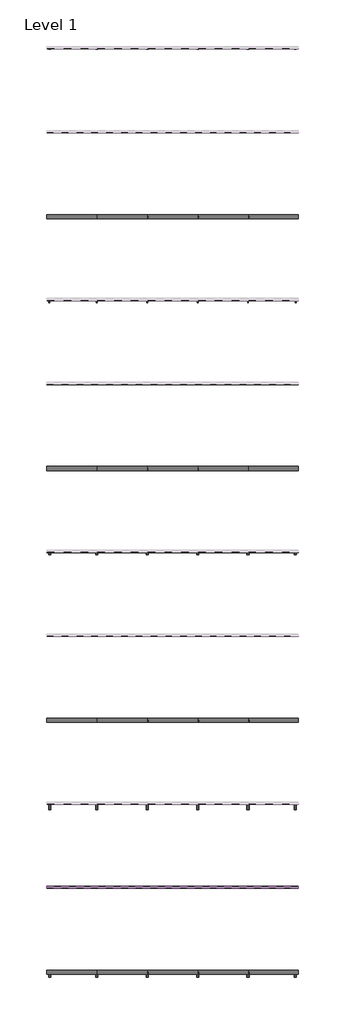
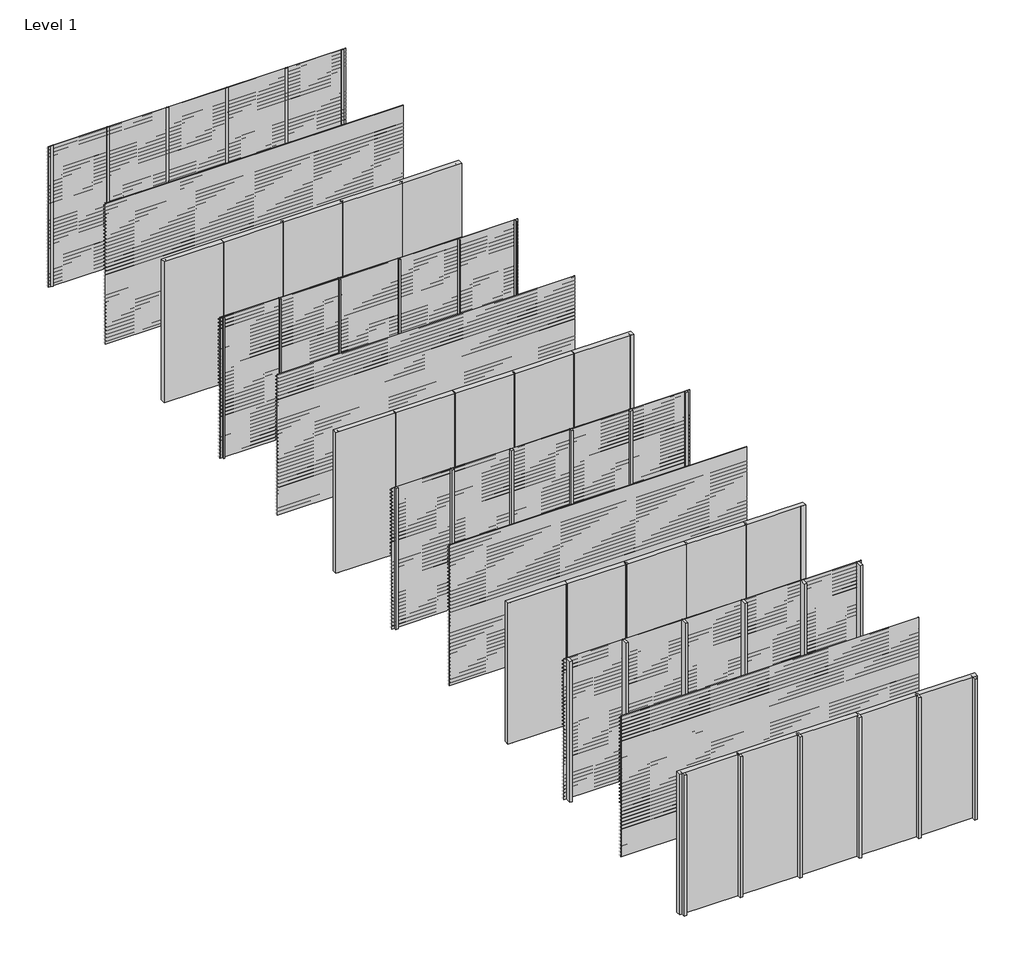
# One storey, part 1 of 11: 48 members, 44 plates, 25 proxies.
"""IFC4 building model written with IfcOpenShell, lengths in millimetres."""

from ifc_helpers import new_model, si_unit, frame, origin, origin_with_axes, place, context, project, spatial, polyline, outline, extrude, transform, mapped, element, save
from components import rectangular_mullion_bbbcbd30, rectangular_mullion_f8d4a220, rectangular_mullion_81aaf6fe, rectangular_mullion_6e08dc26, rectangular_mullion_75c52e10, rectangular_mullion_40295cf1, rectangular_mullion_7f158cb3, rectangular_mullion_66519e13, rectangular_mullion_5829b51c, rectangular_mullion_3b5b8a15, rectangular_mullion_81543344, rectangular_mullion_041a21c4, empty_system_panel_empty_50a928b3, empty_system_panel_empty_6b1ffbf5

model = new_model("IFC4")

# Units and contexts
model_context = context("Model", 3, world=origin())
ifc_project = project(units=[si_unit("LENGTHUNIT", "METRE", prefix="MILLI")], contexts=[model_context])

# Site, building, storey
site = spatial("IfcSite", under=ifc_project)
building = spatial("IfcBuilding", under=site)
storey = spatial("IfcBuildingStorey", under=building, Name="Level 1", Elevation=0.0)

# Proxies
placement = place(None, origin())
element("IfcBuildingElementProxy", 1, Name="Wall Sweeps", at=placement, inside=storey, context=model_context, shape_type="SweptSolid", body=[
    extrude(outline(polyline([(-19995.0, 3000.0), (-19995.0, 2990.7409854), (-19946.0, 2940.0), (-19946.0, 2924.0), (-19997.0, 2976.812046), (-19997.0, 3000.0), (-19995.0, 3000.0)])), frame((0.0, 0.0, 0.0), z_axis=(1.0, 0.0, 0.0), x_axis=(0.0, 1.0, 0.0)), (0.0, 0.0, 1.0), 6000.0),
])
element("IfcBuildingElementProxy", 2, Name="Wall Sweeps", at=placement, inside=storey, context=model_context, shape_type="SweptSolid", body=[
    extrude(outline(polyline([(-19995.0, 2925.0), (-19995.0, 2915.7409854), (-19946.0, 2865.0), (-19946.0, 2849.0), (-19997.0, 2901.812046), (-19997.0, 2925.0), (-19995.0, 2925.0)])), frame((0.0, 0.0, 0.0), z_axis=(1.0, 0.0, 0.0), x_axis=(0.0, 1.0, 0.0)), (0.0, 0.0, 1.0), 6000.0),
])
element("IfcBuildingElementProxy", 3, Name="Wall Sweeps", at=placement, inside=storey, context=model_context, shape_type="SweptSolid", body=[
    extrude(outline(polyline([(-19995.0, 2850.0), (-19995.0, 2840.7409854), (-19946.0, 2790.0), (-19946.0, 2774.0), (-19997.0, 2826.812046), (-19997.0, 2850.0), (-19995.0, 2850.0)])), frame((0.0, 0.0, 0.0), z_axis=(1.0, 0.0, 0.0), x_axis=(0.0, 1.0, 0.0)), (0.0, 0.0, 1.0), 6000.0),
])
element("IfcBuildingElementProxy", 4, Name="Wall Sweeps", at=placement, inside=storey, context=model_context, shape_type="SweptSolid", body=[
    extrude(outline(polyline([(-19995.0, 2775.0), (-19995.0, 2765.7409854), (-19946.0, 2715.0), (-19946.0, 2699.0), (-19997.0, 2751.812046), (-19997.0, 2775.0), (-19995.0, 2775.0)])), frame((0.0, 0.0, 0.0), z_axis=(1.0, 0.0, 0.0), x_axis=(0.0, 1.0, 0.0)), (0.0, 0.0, 1.0), 6000.0),
])
element("IfcBuildingElementProxy", 5, Name="Wall Sweeps", at=placement, inside=storey, context=model_context, shape_type="SweptSolid", body=[
    extrude(outline(polyline([(-19995.0, 2700.0), (-19995.0, 2690.7409854), (-19946.0, 2640.0), (-19946.0, 2624.0), (-19997.0, 2676.812046), (-19997.0, 2700.0), (-19995.0, 2700.0)])), frame((0.0, 0.0, 0.0), z_axis=(1.0, 0.0, 0.0), x_axis=(0.0, 1.0, 0.0)), (0.0, 0.0, 1.0), 6000.0),
])
element("IfcBuildingElementProxy", 6, Name="Wall Sweeps", at=placement, inside=storey, context=model_context, shape_type="SweptSolid", body=[
    extrude(outline(polyline([(-19995.0, 2625.0), (-19995.0, 2615.7409854), (-19946.0, 2565.0), (-19946.0, 2549.0), (-19997.0, 2601.812046), (-19997.0, 2625.0), (-19995.0, 2625.0)])), frame((0.0, 0.0, 0.0), z_axis=(1.0, 0.0, 0.0), x_axis=(0.0, 1.0, 0.0)), (0.0, 0.0, 1.0), 6000.0),
])
element("IfcBuildingElementProxy", 7, Name="Wall Sweeps", at=placement, inside=storey, context=model_context, shape_type="SweptSolid", body=[
    extrude(outline(polyline([(-19995.0, 2550.0), (-19995.0, 2540.7409854), (-19946.0, 2490.0), (-19946.0, 2474.0), (-19997.0, 2526.812046), (-19997.0, 2550.0), (-19995.0, 2550.0)])), frame((0.0, 0.0, 0.0), z_axis=(1.0, 0.0, 0.0), x_axis=(0.0, 1.0, 0.0)), (0.0, 0.0, 1.0), 6000.0),
])
element("IfcBuildingElementProxy", 8, Name="Wall Sweeps", at=placement, inside=storey, context=model_context, shape_type="SweptSolid", body=[
    extrude(outline(polyline([(-19995.0, 2475.0), (-19995.0, 2465.7409854), (-19946.0, 2415.0), (-19946.0, 2399.0), (-19997.0, 2451.812046), (-19997.0, 2475.0), (-19995.0, 2475.0)])), frame((0.0, 0.0, 0.0), z_axis=(1.0, 0.0, 0.0), x_axis=(0.0, 1.0, 0.0)), (0.0, 0.0, 1.0), 6000.0),
])
element("IfcBuildingElementProxy", 9, Name="Wall Sweeps", at=placement, inside=storey, context=model_context, shape_type="SweptSolid", body=[
    extrude(outline(polyline([(-19995.0, 2400.0), (-19995.0, 2390.7409854), (-19946.0, 2340.0), (-19946.0, 2324.0), (-19997.0, 2376.812046), (-19997.0, 2400.0), (-19995.0, 2400.0)])), frame((0.0, 0.0, 0.0), z_axis=(1.0, 0.0, 0.0), x_axis=(0.0, 1.0, 0.0)), (0.0, 0.0, 1.0), 6000.0),
])
element("IfcBuildingElementProxy", 10, Name="Wall Sweeps", at=placement, inside=storey, context=model_context, shape_type="SweptSolid", body=[
    extrude(outline(polyline([(-19995.0, 2325.0), (-19995.0, 2315.7409854), (-19946.0, 2265.0), (-19946.0, 2249.0), (-19997.0, 2301.812046), (-19997.0, 2325.0), (-19995.0, 2325.0)])), frame((0.0, 0.0, 0.0), z_axis=(1.0, 0.0, 0.0), x_axis=(0.0, 1.0, 0.0)), (0.0, 0.0, 1.0), 6000.0),
])
element("IfcBuildingElementProxy", 11, Name="Wall Sweeps", at=placement, inside=storey, context=model_context, shape_type="SweptSolid", body=[
    extrude(outline(polyline([(-19995.0, 2250.0), (-19995.0, 2240.7409854), (-19946.0, 2190.0), (-19946.0, 2174.0), (-19997.0, 2226.812046), (-19997.0, 2250.0), (-19995.0, 2250.0)])), frame((0.0, 0.0, 0.0), z_axis=(1.0, 0.0, 0.0), x_axis=(0.0, 1.0, 0.0)), (0.0, 0.0, 1.0), 6000.0),
])
element("IfcBuildingElementProxy", 12, Name="Wall Sweeps", at=placement, inside=storey, context=model_context, shape_type="SweptSolid", body=[
    extrude(outline(polyline([(-19995.0, 2175.0), (-19995.0, 2165.7409854), (-19946.0, 2115.0), (-19946.0, 2099.0), (-19997.0, 2151.812046), (-19997.0, 2175.0), (-19995.0, 2175.0)])), frame((0.0, 0.0, 0.0), z_axis=(1.0, 0.0, 0.0), x_axis=(0.0, 1.0, 0.0)), (0.0, 0.0, 1.0), 6000.0),
])
element("IfcBuildingElementProxy", 13, Name="Wall Sweeps", at=placement, inside=storey, context=model_context, shape_type="SweptSolid", body=[
    extrude(outline(polyline([(-19995.0, 2100.0), (-19995.0, 2090.7409854), (-19946.0, 2040.0), (-19946.0, 2024.0), (-19997.0, 2076.812046), (-19997.0, 2100.0), (-19995.0, 2100.0)])), frame((0.0, 0.0, 0.0), z_axis=(1.0, 0.0, 0.0), x_axis=(0.0, 1.0, 0.0)), (0.0, 0.0, 1.0), 6000.0),
])
element("IfcBuildingElementProxy", 14, Name="Wall Sweeps", at=placement, inside=storey, context=model_context, shape_type="SweptSolid", body=[
    extrude(outline(polyline([(-19995.0, 2025.0), (-19995.0, 2015.7409854), (-19946.0, 1965.0), (-19946.0, 1949.0), (-19997.0, 2001.812046), (-19997.0, 2025.0), (-19995.0, 2025.0)])), frame((0.0, 0.0, 0.0), z_axis=(1.0, 0.0, 0.0), x_axis=(0.0, 1.0, 0.0)), (0.0, 0.0, 1.0), 6000.0),
])
element("IfcBuildingElementProxy", 15, Name="Wall Sweeps", at=placement, inside=storey, context=model_context, shape_type="SweptSolid", body=[
    extrude(outline(polyline([(-19995.0, 1950.0), (-19995.0, 1940.7409854), (-19946.0, 1890.0), (-19946.0, 1874.0), (-19997.0, 1926.812046), (-19997.0, 1950.0), (-19995.0, 1950.0)])), frame((0.0, 0.0, 0.0), z_axis=(1.0, 0.0, 0.0), x_axis=(0.0, 1.0, 0.0)), (0.0, 0.0, 1.0), 6000.0),
])
element("IfcBuildingElementProxy", 16, Name="Wall Sweeps", at=placement, inside=storey, context=model_context, shape_type="SweptSolid", body=[
    extrude(outline(polyline([(-19995.0, 1875.0), (-19995.0, 1865.7409854), (-19946.0, 1815.0), (-19946.0, 1799.0), (-19997.0, 1851.812046), (-19997.0, 1875.0), (-19995.0, 1875.0)])), frame((0.0, 0.0, 0.0), z_axis=(1.0, 0.0, 0.0), x_axis=(0.0, 1.0, 0.0)), (0.0, 0.0, 1.0), 6000.0),
])
element("IfcBuildingElementProxy", 17, Name="Wall Sweeps", at=placement, inside=storey, context=model_context, shape_type="SweptSolid", body=[
    extrude(outline(polyline([(-19995.0, 1800.0), (-19995.0, 1790.7409854), (-19946.0, 1740.0), (-19946.0, 1724.0), (-19997.0, 1776.812046), (-19997.0, 1800.0), (-19995.0, 1800.0)])), frame((0.0, 0.0, 0.0), z_axis=(1.0, 0.0, 0.0), x_axis=(0.0, 1.0, 0.0)), (0.0, 0.0, 1.0), 6000.0),
])
element("IfcBuildingElementProxy", 18, Name="Wall Sweeps", at=placement, inside=storey, context=model_context, shape_type="SweptSolid", body=[
    extrude(outline(polyline([(-19995.0, 1725.0), (-19995.0, 1715.7409854), (-19946.0, 1665.0), (-19946.0, 1649.0), (-19997.0, 1701.812046), (-19997.0, 1725.0), (-19995.0, 1725.0)])), frame((0.0, 0.0, 0.0), z_axis=(1.0, 0.0, 0.0), x_axis=(0.0, 1.0, 0.0)), (0.0, 0.0, 1.0), 6000.0),
])
element("IfcBuildingElementProxy", 19, Name="Wall Sweeps", at=placement, inside=storey, context=model_context, shape_type="SweptSolid", body=[
    extrude(outline(polyline([(-19995.0, 1650.0), (-19995.0, 1640.7409854), (-19946.0, 1590.0), (-19946.0, 1574.0), (-19997.0, 1626.812046), (-19997.0, 1650.0), (-19995.0, 1650.0)])), frame((0.0, 0.0, 0.0), z_axis=(1.0, 0.0, 0.0), x_axis=(0.0, 1.0, 0.0)), (0.0, 0.0, 1.0), 6000.0),
])
element("IfcBuildingElementProxy", 20, Name="Wall Sweeps", at=placement, inside=storey, context=model_context, shape_type="SweptSolid", body=[
    extrude(outline(polyline([(-19995.0, 1575.0), (-19995.0, 1565.7409854), (-19946.0, 1515.0), (-19946.0, 1499.0), (-19997.0, 1551.812046), (-19997.0, 1575.0), (-19995.0, 1575.0)])), frame((0.0, 0.0, 0.0), z_axis=(1.0, 0.0, 0.0), x_axis=(0.0, 1.0, 0.0)), (0.0, 0.0, 1.0), 6000.0),
])
element("IfcBuildingElementProxy", 21, Name="Wall Sweeps", at=placement, inside=storey, context=model_context, shape_type="SweptSolid", body=[
    extrude(outline(polyline([(-19995.0, 1500.0), (-19995.0, 1490.7409854), (-19946.0, 1440.0), (-19946.0, 1424.0), (-19997.0, 1476.812046), (-19997.0, 1500.0), (-19995.0, 1500.0)])), frame((0.0, 0.0, 0.0), z_axis=(1.0, 0.0, 0.0), x_axis=(0.0, 1.0, 0.0)), (0.0, 0.0, 1.0), 6000.0),
])
element("IfcBuildingElementProxy", 22, Name="Wall Sweeps", at=placement, inside=storey, context=model_context, shape_type="SweptSolid", body=[
    extrude(outline(polyline([(-19995.0, 1425.0), (-19995.0, 1415.7409854), (-19946.0, 1365.0), (-19946.0, 1349.0), (-19997.0, 1401.812046), (-19997.0, 1425.0), (-19995.0, 1425.0)])), frame((0.0, 0.0, 0.0), z_axis=(1.0, 0.0, 0.0), x_axis=(0.0, 1.0, 0.0)), (0.0, 0.0, 1.0), 6000.0),
])
element("IfcBuildingElementProxy", 23, Name="Wall Sweeps", at=placement, inside=storey, context=model_context, shape_type="SweptSolid", body=[
    extrude(outline(polyline([(-19995.0, 1350.0), (-19995.0, 1340.7409854), (-19946.0, 1290.0), (-19946.0, 1274.0), (-19997.0, 1326.812046), (-19997.0, 1350.0), (-19995.0, 1350.0)])), frame((0.0, 0.0, 0.0), z_axis=(1.0, 0.0, 0.0), x_axis=(0.0, 1.0, 0.0)), (0.0, 0.0, 1.0), 6000.0),
])
element("IfcBuildingElementProxy", 24, Name="Wall Sweeps", at=placement, inside=storey, context=model_context, shape_type="SweptSolid", body=[
    extrude(outline(polyline([(-19995.0, 1275.0), (-19995.0, 1265.7409854), (-19946.0, 1215.0), (-19946.0, 1199.0), (-19997.0, 1251.812046), (-19997.0, 1275.0), (-19995.0, 1275.0)])), frame((0.0, 0.0, 0.0), z_axis=(1.0, 0.0, 0.0), x_axis=(0.0, 1.0, 0.0)), (0.0, 0.0, 1.0), 6000.0),
])
element("IfcBuildingElementProxy", 25, Name="Wall Sweeps", at=placement, inside=storey, context=model_context, shape_type="SweptSolid", body=[
    extrude(outline(polyline([(-19995.0, 1200.0), (-19995.0, 1190.7409854), (-19946.0, 1140.0), (-19946.0, 1124.0), (-19997.0, 1176.812046), (-19997.0, 1200.0), (-19995.0, 1200.0)])), frame((0.0, 0.0, 0.0), z_axis=(1.0, 0.0, 0.0), x_axis=(0.0, 1.0, 0.0)), (0.0, 0.0, 1.0), 6000.0),
])

# Members
rectangular_mullion_shape = rectangular_mullion_bbbcbd30(model_context)
element("IfcMember", 26, ObjectType="Rectangular Mullion : RSen_21_CWM_support profile - 50x12 - left_gen_duco projects", at=placement, inside=storey, context=model_context, shape_type="MappedRepresentation", body=[
    mapped(rectangular_mullion_shape, transform((0.0, 0.0, 0.0), x_axis=(-1.0, 0.0, 0.0), y_axis=(0.0, 1.0, 0.0), z_axis=(0.0, 0.0, -1.0))),
])
element("IfcMember", 27, ObjectType="Rectangular Mullion : RSen_21_CWM_support profile - 50x12 - left_gen_duco projects", at=placement, inside=storey, context=model_context, shape_type="MappedRepresentation", body=[
    mapped(rectangular_mullion_shape, transform((0.0, -4000.0, 0.0), x_axis=(-1.0, 0.0, 0.0), y_axis=(0.0, 1.0, 0.0), z_axis=(0.0, 0.0, -1.0))),
])
rectangular_mullion_2_shape = rectangular_mullion_f8d4a220(model_context)
element("IfcMember", 28, ObjectType="Rectangular Mullion : RSen_21_CWM_support profile - 50x12 - right_gen_duco projects", at=placement, inside=storey, context=model_context, shape_type="MappedRepresentation", body=[
    mapped(rectangular_mullion_2_shape, transform((6000.0, 0.0, 3000.0), x_axis=(1.0, 0.0, 0.0), y_axis=(0.0, 1.0, 0.0), z_axis=(0.0, 0.0, 1.0))),
])
element("IfcMember", 29, ObjectType="Rectangular Mullion : RSen_21_CWM_support profile - 50x12 - right_gen_duco projects", at=placement, inside=storey, context=model_context, shape_type="MappedRepresentation", body=[
    mapped(rectangular_mullion_2_shape, transform((6000.0, -4000.0, 3000.0), x_axis=(1.0, 0.0, 0.0), y_axis=(0.0, 1.0, 0.0), z_axis=(0.0, 0.0, 1.0))),
])
rectangular_mullion_3_shape = rectangular_mullion_81aaf6fe(model_context)
element("IfcMember", 30, ObjectType="Rectangular Mullion : RSen_21_CWM_support profile - 21x50 Multi - left_gen_duco projects", at=placement, inside=storey, context=model_context, shape_type="MappedRepresentation", body=[
    mapped(rectangular_mullion_3_shape, transform((0.0, -6000.0, 0.0), x_axis=(-1.0, 0.0, 0.0), y_axis=(0.0, 1.0, 0.0), z_axis=(0.0, 0.0, -1.0))),
])
element("IfcMember", 31, ObjectType="Rectangular Mullion : RSen_21_CWM_support profile - 21x50 Multi - left_gen_duco projects", at=placement, inside=storey, context=model_context, shape_type="MappedRepresentation", body=[
    mapped(rectangular_mullion_3_shape, transform((0.0, -10000.0, 0.0), x_axis=(-1.0, 0.0, 0.0), y_axis=(0.0, 1.0, 0.0), z_axis=(0.0, 0.0, -1.0))),
])
rectangular_mullion_4_shape = rectangular_mullion_6e08dc26(model_context)
element("IfcMember", 32, ObjectType="Rectangular Mullion : RSen_21_CWM_support profile - 21x50 Multi - right_gen_duco projects", at=placement, inside=storey, context=model_context, shape_type="MappedRepresentation", body=[
    mapped(rectangular_mullion_4_shape, transform((6000.0, -6000.0, 3000.0), x_axis=(1.0, 0.0, 0.0), y_axis=(0.0, 1.0, 0.0), z_axis=(0.0, 0.0, 1.0))),
])
element("IfcMember", 33, ObjectType="Rectangular Mullion : RSen_21_CWM_support profile - 21x50 Multi - right_gen_duco projects", at=placement, inside=storey, context=model_context, shape_type="MappedRepresentation", body=[
    mapped(rectangular_mullion_4_shape, transform((6000.0, -10000.0, 3000.0), x_axis=(1.0, 0.0, 0.0), y_axis=(0.0, 1.0, 0.0), z_axis=(0.0, 0.0, 1.0))),
])
rectangular_mullion_5_shape = rectangular_mullion_75c52e10(model_context)
element("IfcMember", 34, ObjectType="Rectangular Mullion : RSen_21_CWM_support profile - 50x50 - left_gen_duco projects", at=placement, inside=storey, context=model_context, shape_type="MappedRepresentation", body=[
    mapped(rectangular_mullion_5_shape, transform((0.0, -12000.0, 0.0), x_axis=(-1.0, 0.0, 0.0), y_axis=(0.0, 1.0, 0.0), z_axis=(0.0, 0.0, -1.0))),
])
element("IfcMember", 35, ObjectType="Rectangular Mullion : RSen_21_CWM_support profile - 50x50 - left_gen_duco projects", at=placement, inside=storey, context=model_context, shape_type="MappedRepresentation", body=[
    mapped(rectangular_mullion_5_shape, transform((0.0, -16000.0, 0.0), x_axis=(-1.0, 0.0, 0.0), y_axis=(0.0, 1.0, 0.0), z_axis=(0.0, 0.0, -1.0))),
])
rectangular_mullion_6_shape = rectangular_mullion_40295cf1(model_context)
element("IfcMember", 36, ObjectType="Rectangular Mullion : RSen_21_CWM_support profile - 50x50 - right_gen_duco projects", at=placement, inside=storey, context=model_context, shape_type="MappedRepresentation", body=[
    mapped(rectangular_mullion_6_shape, transform((6000.0, -12000.0, 3000.0), x_axis=(1.0, 0.0, 0.0), y_axis=(0.0, 1.0, 0.0), z_axis=(0.0, 0.0, 1.0))),
])
element("IfcMember", 37, ObjectType="Rectangular Mullion : RSen_21_CWM_support profile - 50x50 - right_gen_duco projects", at=placement, inside=storey, context=model_context, shape_type="MappedRepresentation", body=[
    mapped(rectangular_mullion_6_shape, transform((6000.0, -16000.0, 3000.0), x_axis=(1.0, 0.0, 0.0), y_axis=(0.0, 1.0, 0.0), z_axis=(0.0, 0.0, 1.0))),
])
rectangular_mullion_7_shape = rectangular_mullion_7f158cb3(model_context)
element("IfcMember", 38, ObjectType="Rectangular Mullion : RSen_21_CWM_support profile - 50x12_gen_duco projects", at=placement, inside=storey, context=model_context, shape_type="MappedRepresentation", body=[
    mapped(rectangular_mullion_7_shape, transform((4800.0, 0.0, 0.0), x_axis=(-1.0, 0.0, 0.0), y_axis=(0.0, 1.0, 0.0), z_axis=(0.0, 0.0, -1.0))),
])
element("IfcMember", 39, ObjectType="Rectangular Mullion : RSen_21_CWM_support profile - 50x12_gen_duco projects", at=placement, inside=storey, context=model_context, shape_type="MappedRepresentation", body=[
    mapped(rectangular_mullion_7_shape, transform((3600.0, 0.0, 0.0), x_axis=(-1.0, 0.0, 0.0), y_axis=(0.0, 1.0, 0.0), z_axis=(0.0, 0.0, -1.0))),
])
element("IfcMember", 40, ObjectType="Rectangular Mullion : RSen_21_CWM_support profile - 50x12_gen_duco projects", at=placement, inside=storey, context=model_context, shape_type="MappedRepresentation", body=[
    mapped(rectangular_mullion_7_shape, transform((2400.0, 0.0, 0.0), x_axis=(-1.0, 0.0, 0.0), y_axis=(0.0, 1.0, 0.0), z_axis=(0.0, 0.0, -1.0))),
])
element("IfcMember", 41, ObjectType="Rectangular Mullion : RSen_21_CWM_support profile - 50x12_gen_duco projects", at=placement, inside=storey, context=model_context, shape_type="MappedRepresentation", body=[
    mapped(rectangular_mullion_7_shape, transform((1200.0, 0.0, 0.0), x_axis=(-1.0, 0.0, 0.0), y_axis=(0.0, 1.0, 0.0), z_axis=(0.0, 0.0, -1.0))),
])
element("IfcMember", 42, ObjectType="Rectangular Mullion : RSen_21_CWM_support profile - 50x12_gen_duco projects", at=placement, inside=storey, context=model_context, shape_type="MappedRepresentation", body=[
    mapped(rectangular_mullion_7_shape, transform((4800.0, -4000.0, 0.0), x_axis=(-1.0, 0.0, 0.0), y_axis=(0.0, 1.0, 0.0), z_axis=(0.0, 0.0, -1.0))),
])
element("IfcMember", 43, ObjectType="Rectangular Mullion : RSen_21_CWM_support profile - 50x12_gen_duco projects", at=placement, inside=storey, context=model_context, shape_type="MappedRepresentation", body=[
    mapped(rectangular_mullion_7_shape, transform((3600.0, -4000.0, 0.0), x_axis=(-1.0, 0.0, 0.0), y_axis=(0.0, 1.0, 0.0), z_axis=(0.0, 0.0, -1.0))),
])
element("IfcMember", 44, ObjectType="Rectangular Mullion : RSen_21_CWM_support profile - 50x12_gen_duco projects", at=placement, inside=storey, context=model_context, shape_type="MappedRepresentation", body=[
    mapped(rectangular_mullion_7_shape, transform((2400.0, -4000.0, 0.0), x_axis=(-1.0, 0.0, 0.0), y_axis=(0.0, 1.0, 0.0), z_axis=(0.0, 0.0, -1.0))),
])
element("IfcMember", 45, ObjectType="Rectangular Mullion : RSen_21_CWM_support profile - 50x12_gen_duco projects", at=placement, inside=storey, context=model_context, shape_type="MappedRepresentation", body=[
    mapped(rectangular_mullion_7_shape, transform((1200.0, -4000.0, 0.0), x_axis=(-1.0, 0.0, 0.0), y_axis=(0.0, 1.0, 0.0), z_axis=(0.0, 0.0, -1.0))),
])
rectangular_mullion_8_shape = rectangular_mullion_66519e13(model_context)
element("IfcMember", 46, ObjectType="Rectangular Mullion : RSen_21_CWM_support profile - 21x50 Multi_gen_duco projects", at=placement, inside=storey, context=model_context, shape_type="MappedRepresentation", body=[
    mapped(rectangular_mullion_8_shape, transform((4800.0, -6000.0, 0.0), x_axis=(-1.0, 0.0, 0.0), y_axis=(0.0, 1.0, 0.0), z_axis=(0.0, 0.0, -1.0))),
])
element("IfcMember", 47, ObjectType="Rectangular Mullion : RSen_21_CWM_support profile - 21x50 Multi_gen_duco projects", at=placement, inside=storey, context=model_context, shape_type="MappedRepresentation", body=[
    mapped(rectangular_mullion_8_shape, transform((3600.0, -6000.0, 0.0), x_axis=(-1.0, 0.0, 0.0), y_axis=(0.0, 1.0, 0.0), z_axis=(0.0, 0.0, -1.0))),
])
element("IfcMember", 48, ObjectType="Rectangular Mullion : RSen_21_CWM_support profile - 21x50 Multi_gen_duco projects", at=placement, inside=storey, context=model_context, shape_type="MappedRepresentation", body=[
    mapped(rectangular_mullion_8_shape, transform((2400.0, -6000.0, 0.0), x_axis=(-1.0, 0.0, 0.0), y_axis=(0.0, 1.0, 0.0), z_axis=(0.0, 0.0, -1.0))),
])
element("IfcMember", 49, ObjectType="Rectangular Mullion : RSen_21_CWM_support profile - 21x50 Multi_gen_duco projects", at=placement, inside=storey, context=model_context, shape_type="MappedRepresentation", body=[
    mapped(rectangular_mullion_8_shape, transform((1200.0, -6000.0, 0.0), x_axis=(-1.0, 0.0, 0.0), y_axis=(0.0, 1.0, 0.0), z_axis=(0.0, 0.0, -1.0))),
])
element("IfcMember", 50, ObjectType="Rectangular Mullion : RSen_21_CWM_support profile - 21x50 Multi_gen_duco projects", at=placement, inside=storey, context=model_context, shape_type="MappedRepresentation", body=[
    mapped(rectangular_mullion_8_shape, transform((4800.0, -10000.0, 0.0), x_axis=(-1.0, 0.0, 0.0), y_axis=(0.0, 1.0, 0.0), z_axis=(0.0, 0.0, -1.0))),
])
element("IfcMember", 51, ObjectType="Rectangular Mullion : RSen_21_CWM_support profile - 21x50 Multi_gen_duco projects", at=placement, inside=storey, context=model_context, shape_type="MappedRepresentation", body=[
    mapped(rectangular_mullion_8_shape, transform((3600.0, -10000.0, 0.0), x_axis=(-1.0, 0.0, 0.0), y_axis=(0.0, 1.0, 0.0), z_axis=(0.0, 0.0, -1.0))),
])
element("IfcMember", 52, ObjectType="Rectangular Mullion : RSen_21_CWM_support profile - 21x50 Multi_gen_duco projects", at=placement, inside=storey, context=model_context, shape_type="MappedRepresentation", body=[
    mapped(rectangular_mullion_8_shape, transform((2400.0, -10000.0, 0.0), x_axis=(-1.0, 0.0, 0.0), y_axis=(0.0, 1.0, 0.0), z_axis=(0.0, 0.0, -1.0))),
])
element("IfcMember", 53, ObjectType="Rectangular Mullion : RSen_21_CWM_support profile - 21x50 Multi_gen_duco projects", at=placement, inside=storey, context=model_context, shape_type="MappedRepresentation", body=[
    mapped(rectangular_mullion_8_shape, transform((1200.0, -10000.0, 0.0), x_axis=(-1.0, 0.0, 0.0), y_axis=(0.0, 1.0, 0.0), z_axis=(0.0, 0.0, -1.0))),
])
rectangular_mullion_9_shape = rectangular_mullion_5829b51c(model_context)
element("IfcMember", 54, ObjectType="Rectangular Mullion : RSen_21_CWM_support profile - 50x50_gen_duco projects", at=placement, inside=storey, context=model_context, shape_type="MappedRepresentation", body=[
    mapped(rectangular_mullion_9_shape, transform((4800.0, -12000.0, 0.0), x_axis=(-1.0, 0.0, 0.0), y_axis=(0.0, 1.0, 0.0), z_axis=(0.0, 0.0, -1.0))),
])
element("IfcMember", 55, ObjectType="Rectangular Mullion : RSen_21_CWM_support profile - 50x50_gen_duco projects", at=placement, inside=storey, context=model_context, shape_type="MappedRepresentation", body=[
    mapped(rectangular_mullion_9_shape, transform((3600.0, -12000.0, 0.0), x_axis=(-1.0, 0.0, 0.0), y_axis=(0.0, 1.0, 0.0), z_axis=(0.0, 0.0, -1.0))),
])
element("IfcMember", 56, ObjectType="Rectangular Mullion : RSen_21_CWM_support profile - 50x50_gen_duco projects", at=placement, inside=storey, context=model_context, shape_type="MappedRepresentation", body=[
    mapped(rectangular_mullion_9_shape, transform((2400.0, -12000.0, 0.0), x_axis=(-1.0, 0.0, 0.0), y_axis=(0.0, 1.0, 0.0), z_axis=(0.0, 0.0, -1.0))),
])
element("IfcMember", 57, ObjectType="Rectangular Mullion : RSen_21_CWM_support profile - 50x50_gen_duco projects", at=placement, inside=storey, context=model_context, shape_type="MappedRepresentation", body=[
    mapped(rectangular_mullion_9_shape, transform((1200.0, -12000.0, 0.0), x_axis=(-1.0, 0.0, 0.0), y_axis=(0.0, 1.0, 0.0), z_axis=(0.0, 0.0, -1.0))),
])
element("IfcMember", 58, ObjectType="Rectangular Mullion : RSen_21_CWM_support profile - 50x50_gen_duco projects", at=placement, inside=storey, context=model_context, shape_type="MappedRepresentation", body=[
    mapped(rectangular_mullion_9_shape, transform((4800.0, -16000.0, 0.0), x_axis=(-1.0, 0.0, 0.0), y_axis=(0.0, 1.0, 0.0), z_axis=(0.0, 0.0, -1.0))),
])
element("IfcMember", 59, ObjectType="Rectangular Mullion : RSen_21_CWM_support profile - 50x50_gen_duco projects", at=placement, inside=storey, context=model_context, shape_type="MappedRepresentation", body=[
    mapped(rectangular_mullion_9_shape, transform((3600.0, -16000.0, 0.0), x_axis=(-1.0, 0.0, 0.0), y_axis=(0.0, 1.0, 0.0), z_axis=(0.0, 0.0, -1.0))),
])
element("IfcMember", 60, ObjectType="Rectangular Mullion : RSen_21_CWM_support profile - 50x50_gen_duco projects", at=placement, inside=storey, context=model_context, shape_type="MappedRepresentation", body=[
    mapped(rectangular_mullion_9_shape, transform((2400.0, -16000.0, 0.0), x_axis=(-1.0, 0.0, 0.0), y_axis=(0.0, 1.0, 0.0), z_axis=(0.0, 0.0, -1.0))),
])
element("IfcMember", 61, ObjectType="Rectangular Mullion : RSen_21_CWM_support profile - 50x50_gen_duco projects", at=placement, inside=storey, context=model_context, shape_type="MappedRepresentation", body=[
    mapped(rectangular_mullion_9_shape, transform((1200.0, -16000.0, 0.0), x_axis=(-1.0, 0.0, 0.0), y_axis=(0.0, 1.0, 0.0), z_axis=(0.0, 0.0, -1.0))),
])
rectangular_mullion_10_shape = rectangular_mullion_3b5b8a15(model_context)
element("IfcMember", 62, ObjectType="Rectangular Mullion : RSen_21_CWM_support profile - 50x125_gen_duco projects", at=placement, inside=storey, context=model_context, shape_type="MappedRepresentation", body=[
    mapped(rectangular_mullion_10_shape, transform((1200.0000002, -18000.0, 0.0), x_axis=(1.0, 0.0, 0.0), y_axis=(0.0, -1.0, 0.0), z_axis=(0.0, 0.0, -1.0))),
])
element("IfcMember", 63, ObjectType="Rectangular Mullion : RSen_21_CWM_support profile - 50x125_gen_duco projects", at=placement, inside=storey, context=model_context, shape_type="MappedRepresentation", body=[
    mapped(rectangular_mullion_10_shape, transform((2400.0000001, -18000.0, 0.0), x_axis=(1.0, 0.0, 0.0), y_axis=(0.0, -1.0, 0.0), z_axis=(0.0, 0.0, -1.0))),
])
element("IfcMember", 64, ObjectType="Rectangular Mullion : RSen_21_CWM_support profile - 50x125_gen_duco projects", at=placement, inside=storey, context=model_context, shape_type="MappedRepresentation", body=[
    mapped(rectangular_mullion_10_shape, transform((3599.9999999, -18000.0, 0.0), x_axis=(1.0, 0.0, 0.0), y_axis=(0.0, -1.0, 0.0), z_axis=(0.0, 0.0, -1.0))),
])
element("IfcMember", 65, ObjectType="Rectangular Mullion : RSen_21_CWM_support profile - 50x125_gen_duco projects", at=placement, inside=storey, context=model_context, shape_type="MappedRepresentation", body=[
    mapped(rectangular_mullion_10_shape, transform((4799.9999998, -18000.0, 0.0), x_axis=(1.0, 0.0, 0.0), y_axis=(0.0, -1.0, 0.0), z_axis=(0.0, 0.0, -1.0))),
])
element("IfcMember", 66, ObjectType="Rectangular Mullion : RSen_21_CWM_support profile - 50x125_gen_duco projects", at=placement, inside=storey, context=model_context, shape_type="MappedRepresentation", body=[
    mapped(rectangular_mullion_10_shape, transform((1200.0000002, -22000.0, 0.0), x_axis=(1.0, 0.0, 0.0), y_axis=(0.0, -1.0, 0.0), z_axis=(0.0, 0.0, -1.0))),
])
element("IfcMember", 67, ObjectType="Rectangular Mullion : RSen_21_CWM_support profile - 50x125_gen_duco projects", at=placement, inside=storey, context=model_context, shape_type="MappedRepresentation", body=[
    mapped(rectangular_mullion_10_shape, transform((2400.0000001, -22000.0, 0.0), x_axis=(1.0, 0.0, 0.0), y_axis=(0.0, -1.0, 0.0), z_axis=(0.0, 0.0, -1.0))),
])
element("IfcMember", 68, ObjectType="Rectangular Mullion : RSen_21_CWM_support profile - 50x125_gen_duco projects", at=placement, inside=storey, context=model_context, shape_type="MappedRepresentation", body=[
    mapped(rectangular_mullion_10_shape, transform((3599.9999999, -22000.0, 0.0), x_axis=(1.0, 0.0, 0.0), y_axis=(0.0, -1.0, 0.0), z_axis=(0.0, 0.0, -1.0))),
])
element("IfcMember", 69, ObjectType="Rectangular Mullion : RSen_21_CWM_support profile - 50x125_gen_duco projects", at=placement, inside=storey, context=model_context, shape_type="MappedRepresentation", body=[
    mapped(rectangular_mullion_10_shape, transform((4799.9999998, -22000.0, 0.0), x_axis=(1.0, 0.0, 0.0), y_axis=(0.0, -1.0, 0.0), z_axis=(0.0, 0.0, -1.0))),
])
rectangular_mullion_11_shape = rectangular_mullion_81543344(model_context)
element("IfcMember", 70, ObjectType="Rectangular Mullion : RSen_21_CWM_support profile - 50x125 - left_gen_duco projects", at=placement, inside=storey, context=model_context, shape_type="MappedRepresentation", body=[
    mapped(rectangular_mullion_11_shape, transform((6000.0, -18000.0, 0.0), x_axis=(1.0, 0.0, 0.0), y_axis=(0.0, -1.0, 0.0), z_axis=(0.0, 0.0, -1.0))),
])
element("IfcMember", 71, ObjectType="Rectangular Mullion : RSen_21_CWM_support profile - 50x125 - left_gen_duco projects", at=placement, inside=storey, context=model_context, shape_type="MappedRepresentation", body=[
    mapped(rectangular_mullion_11_shape, transform((6000.0, -22000.0, 0.0), x_axis=(1.0, 0.0, 0.0), y_axis=(0.0, -1.0, 0.0), z_axis=(0.0, 0.0, -1.0))),
])
rectangular_mullion_12_shape = rectangular_mullion_041a21c4(model_context)
element("IfcMember", 72, ObjectType="Rectangular Mullion : RSen_21_CWM_support profile - 50x125 - right_gen_duco projects", at=placement, inside=storey, context=model_context, shape_type="MappedRepresentation", body=[
    mapped(rectangular_mullion_12_shape, transform((0.0, -18000.0, 3000.0), x_axis=(-1.0, 0.0, 0.0), y_axis=(0.0, -1.0, 0.0), z_axis=(0.0, 0.0, 1.0))),
])
element("IfcMember", 73, ObjectType="Rectangular Mullion : RSen_21_CWM_support profile - 50x125 - right_gen_duco projects", at=placement, inside=storey, context=model_context, shape_type="MappedRepresentation", body=[
    mapped(rectangular_mullion_12_shape, transform((0.0, -22000.0, 3000.0), x_axis=(-1.0, 0.0, 0.0), y_axis=(0.0, -1.0, 0.0), z_axis=(0.0, 0.0, 1.0))),
])

# Plates
element("IfcPlate", 74, ObjectType="RSen_21_WA_louvre blade classic W 50-75S_gen_duco projects", at=placement, inside=storey, context=model_context, shape_type="SweptSolid", body=[
    extrude(outline(polyline([(0.0, 1.0), (1200.0, 1.0), (1200.0, -1.0), (0.0, -1.0), (0.0, 1.0)])), origin_with_axes(), (0.0, 0.0, 1.0), 3000.0),
])
element("IfcPlate", 75, ObjectType="RSen_21_WA_louvre blade classic W 50-75S_gen_duco projects", at=placement, inside=storey, context=model_context, shape_type="SweptSolid", body=[
    extrude(outline(polyline([(1200.0, 1.0), (2400.0, 1.0), (2400.0, -1.0), (1200.0, -1.0), (1200.0, 1.0)])), origin_with_axes(), (0.0, 0.0, 1.0), 3000.0),
])
element("IfcPlate", 76, ObjectType="RSen_21_WA_louvre blade classic W 50-75S_gen_duco projects", at=placement, inside=storey, context=model_context, shape_type="SweptSolid", body=[
    extrude(outline(polyline([(2400.0, 1.0), (3600.0, 1.0), (3600.0, -1.0), (2400.0, -1.0), (2400.0, 1.0)])), origin_with_axes(), (0.0, 0.0, 1.0), 3000.0),
])
element("IfcPlate", 77, ObjectType="RSen_21_WA_louvre blade classic W 50-75S_gen_duco projects", at=placement, inside=storey, context=model_context, shape_type="SweptSolid", body=[
    extrude(outline(polyline([(3600.0, 1.0), (4800.0, 1.0), (4800.0, -1.0), (3600.0, -1.0), (3600.0, 1.0)])), origin_with_axes(), (0.0, 0.0, 1.0), 3000.0),
])
element("IfcPlate", 78, ObjectType="RSen_21_WA_louvre blade classic W 50-75S_gen_duco projects", at=placement, inside=storey, context=model_context, shape_type="SweptSolid", body=[
    extrude(outline(polyline([(4800.0, 1.0), (6000.0, 1.0), (6000.0, -1.0), (4800.0, -1.0), (4800.0, 1.0)])), origin_with_axes(), (0.0, 0.0, 1.0), 3000.0),
])
element("IfcPlate", 79, ObjectType="RSen_21_WA_louvre blade classic W 50-75S_gen_duco projects", at=placement, inside=storey, context=model_context, shape_type="SweptSolid", body=[
    extrude(outline(polyline([(0.0, -1999.0), (6000.0, -1999.0), (6000.0, -2001.0), (0.0, -2001.0), (0.0, -1999.0)])), origin_with_axes(), (0.0, 0.0, 1.0), 3000.0),
])
element("IfcPlate", 80, ObjectType="RSen_21_WA_louvre blade classic W 50-75S_gen_duco projects", at=placement, inside=storey, context=model_context, shape_type="SweptSolid", body=[
    extrude(outline(polyline([(0.0, -5999.0), (1200.0, -5999.0), (1200.0, -6001.0), (0.0, -6001.0), (0.0, -5999.0)])), origin_with_axes(), (0.0, 0.0, 1.0), 3000.0),
])
element("IfcPlate", 81, ObjectType="RSen_21_WA_louvre blade classic W 50-75S_gen_duco projects", at=placement, inside=storey, context=model_context, shape_type="SweptSolid", body=[
    extrude(outline(polyline([(1200.0, -5999.0), (2400.0, -5999.0), (2400.0, -6001.0), (1200.0, -6001.0), (1200.0, -5999.0)])), origin_with_axes(), (0.0, 0.0, 1.0), 3000.0),
])
element("IfcPlate", 82, ObjectType="RSen_21_WA_louvre blade classic W 50-75S_gen_duco projects", at=placement, inside=storey, context=model_context, shape_type="SweptSolid", body=[
    extrude(outline(polyline([(2400.0, -5999.0), (3600.0, -5999.0), (3600.0, -6001.0), (2400.0, -6001.0), (2400.0, -5999.0)])), origin_with_axes(), (0.0, 0.0, 1.0), 3000.0),
])
element("IfcPlate", 83, ObjectType="RSen_21_WA_louvre blade classic W 50-75S_gen_duco projects", at=placement, inside=storey, context=model_context, shape_type="SweptSolid", body=[
    extrude(outline(polyline([(3600.0, -5999.0), (4800.0, -5999.0), (4800.0, -6001.0), (3600.0, -6001.0), (3600.0, -5999.0)])), origin_with_axes(), (0.0, 0.0, 1.0), 3000.0),
])
element("IfcPlate", 84, ObjectType="RSen_21_WA_louvre blade classic W 50-75S_gen_duco projects", at=placement, inside=storey, context=model_context, shape_type="SweptSolid", body=[
    extrude(outline(polyline([(4800.0, -5999.0), (6000.0, -5999.0), (6000.0, -6001.0), (4800.0, -6001.0), (4800.0, -5999.0)])), origin_with_axes(), (0.0, 0.0, 1.0), 3000.0),
])
element("IfcPlate", 85, ObjectType="RSen_21_WA_louvre blade classic W 50-75S_gen_duco projects", at=placement, inside=storey, context=model_context, shape_type="SweptSolid", body=[
    extrude(outline(polyline([(0.0, -7999.0), (6000.0, -7999.0), (6000.0, -8001.0), (0.0, -8001.0), (0.0, -7999.0)])), origin_with_axes(), (0.0, 0.0, 1.0), 3000.0),
])
element("IfcPlate", 86, ObjectType="RSen_21_WA_louvre blade classic W 50-75S_gen_duco projects", at=placement, inside=storey, context=model_context, shape_type="SweptSolid", body=[
    extrude(outline(polyline([(0.0, -11999.0), (1200.0, -11999.0), (1200.0, -12001.0), (0.0, -12001.0), (0.0, -11999.0)])), origin_with_axes(), (0.0, 0.0, 1.0), 3000.0),
])
element("IfcPlate", 87, ObjectType="RSen_21_WA_louvre blade classic W 50-75S_gen_duco projects", at=placement, inside=storey, context=model_context, shape_type="SweptSolid", body=[
    extrude(outline(polyline([(1200.0, -11999.0), (2400.0, -11999.0), (2400.0, -12001.0), (1200.0, -12001.0), (1200.0, -11999.0)])), origin_with_axes(), (0.0, 0.0, 1.0), 3000.0),
])
element("IfcPlate", 88, ObjectType="RSen_21_WA_louvre blade classic W 50-75S_gen_duco projects", at=placement, inside=storey, context=model_context, shape_type="SweptSolid", body=[
    extrude(outline(polyline([(2400.0, -11999.0), (3600.0, -11999.0), (3600.0, -12001.0), (2400.0, -12001.0), (2400.0, -11999.0)])), origin_with_axes(), (0.0, 0.0, 1.0), 3000.0),
])
element("IfcPlate", 89, ObjectType="RSen_21_WA_louvre blade classic W 50-75S_gen_duco projects", at=placement, inside=storey, context=model_context, shape_type="SweptSolid", body=[
    extrude(outline(polyline([(3600.0, -11999.0), (4800.0, -11999.0), (4800.0, -12001.0), (3600.0, -12001.0), (3600.0, -11999.0)])), origin_with_axes(), (0.0, 0.0, 1.0), 3000.0),
])
element("IfcPlate", 90, ObjectType="RSen_21_WA_louvre blade classic W 50-75S_gen_duco projects", at=placement, inside=storey, context=model_context, shape_type="SweptSolid", body=[
    extrude(outline(polyline([(4800.0, -11999.0), (6000.0, -11999.0), (6000.0, -12001.0), (4800.0, -12001.0), (4800.0, -11999.0)])), origin_with_axes(), (0.0, 0.0, 1.0), 3000.0),
])
element("IfcPlate", 91, ObjectType="RSen_21_WA_louvre blade classic W 50-75S_gen_duco projects", at=placement, inside=storey, context=model_context, shape_type="SweptSolid", body=[
    extrude(outline(polyline([(0.0, -13999.0), (6000.0, -13999.0), (6000.0, -14001.0), (0.0, -14001.0), (0.0, -13999.0)])), origin_with_axes(), (0.0, 0.0, 1.0), 3000.0),
])
element("IfcPlate", 92, ObjectType="RSen_21_WA_louvre blade classic W 50-75S_gen_duco projects", at=placement, inside=storey, context=model_context, shape_type="SweptSolid", body=[
    extrude(outline(polyline([(6000.0, -18001.0), (4799.9999998, -18001.0), (4799.9999998, -17999.0), (6000.0, -17999.0), (6000.0, -18001.0)])), origin_with_axes(), (0.0, 0.0, 1.0), 3000.0),
])
element("IfcPlate", 93, ObjectType="RSen_21_WA_louvre blade classic W 50-75S_gen_duco projects", at=placement, inside=storey, context=model_context, shape_type="SweptSolid", body=[
    extrude(outline(polyline([(4799.9999998, -18001.0), (3599.9999999, -18001.0), (3599.9999999, -17999.0), (4799.9999998, -17999.0), (4799.9999998, -18001.0)])), origin_with_axes(), (0.0, 0.0, 1.0), 3000.0),
])
element("IfcPlate", 94, ObjectType="RSen_21_WA_louvre blade classic W 50-75S_gen_duco projects", at=placement, inside=storey, context=model_context, shape_type="SweptSolid", body=[
    extrude(outline(polyline([(3599.9999999, -18001.0), (2400.0000001, -18001.0), (2400.0000001, -17999.0), (3599.9999999, -17999.0), (3599.9999999, -18001.0)])), origin_with_axes(), (0.0, 0.0, 1.0), 3000.0),
])
element("IfcPlate", 95, ObjectType="RSen_21_WA_louvre blade classic W 50-75S_gen_duco projects", at=placement, inside=storey, context=model_context, shape_type="SweptSolid", body=[
    extrude(outline(polyline([(2400.0000001, -18001.0), (1200.0000002, -18001.0), (1200.0000002, -17999.0), (2400.0000001, -17999.0), (2400.0000001, -18001.0)])), origin_with_axes(), (0.0, 0.0, 1.0), 3000.0),
])
element("IfcPlate", 96, ObjectType="RSen_21_WA_louvre blade classic W 50-75S_gen_duco projects", at=placement, inside=storey, context=model_context, shape_type="SweptSolid", body=[
    extrude(outline(polyline([(1200.0000002, -18001.0), (0.0, -18001.0), (0.0, -17999.0), (1200.0000002, -17999.0), (1200.0000002, -18001.0)])), origin_with_axes(), (0.0, 0.0, 1.0), 3000.0),
])
element("IfcPlate", 97, ObjectType="RSen_21_WA_louvre blade classic W 50-75S_gen_duco projects", at=placement, inside=storey, context=model_context, shape_type="SweptSolid", body=[
    extrude(outline(polyline([(6000.0, -20001.0), (0.0, -20001.0), (0.0, -19999.0), (6000.0, -19999.0), (6000.0, -20001.0)])), origin_with_axes(), (0.0, 0.0, 1.0), 3000.0),
])
empty_system_panel_empty_shape = empty_system_panel_empty_50a928b3(model_context)
element("IfcPlate", 98, ObjectType="Empty System Panel : Empty", at=placement, inside=storey, context=model_context, shape_type="MappedRepresentation", body=[
    mapped(empty_system_panel_empty_shape, transform((5400.0, -4000.0, 0.0), x_axis=(-1.0, 0.0, 0.0), y_axis=(0.0, -1.0, 0.0), z_axis=(0.0, 0.0, 1.0))),
])
element("IfcPlate", 99, ObjectType="Empty System Panel : Empty", at=placement, inside=storey, context=model_context, shape_type="MappedRepresentation", body=[
    mapped(empty_system_panel_empty_shape, transform((5400.0, -10000.0, 0.0), x_axis=(-1.0, 0.0, 0.0), y_axis=(0.0, -1.0, 0.0), z_axis=(0.0, 0.0, 1.0))),
])
element("IfcPlate", 100, ObjectType="Empty System Panel : Empty", at=placement, inside=storey, context=model_context, shape_type="MappedRepresentation", body=[
    mapped(empty_system_panel_empty_shape, transform((5400.0, -16000.0, 0.0), x_axis=(-1.0, 0.0, 0.0), y_axis=(0.0, -1.0, 0.0), z_axis=(0.0, 0.0, 1.0))),
])
element("IfcPlate", 101, ObjectType="Empty System Panel : Empty", at=placement, inside=storey, context=model_context, shape_type="MappedRepresentation", body=[
    mapped(empty_system_panel_empty_shape, transform((4200.0, -4000.0, 0.0), x_axis=(-1.0, 0.0, 0.0), y_axis=(0.0, -1.0, 0.0), z_axis=(0.0, 0.0, 1.0))),
])
element("IfcPlate", 102, ObjectType="Empty System Panel : Empty", at=placement, inside=storey, context=model_context, shape_type="MappedRepresentation", body=[
    mapped(empty_system_panel_empty_shape, transform((3000.0, -4000.0, 0.0), x_axis=(-1.0, 0.0, 0.0), y_axis=(0.0, -1.0, 0.0), z_axis=(0.0, 0.0, 1.0))),
])
element("IfcPlate", 103, ObjectType="Empty System Panel : Empty", at=placement, inside=storey, context=model_context, shape_type="MappedRepresentation", body=[
    mapped(empty_system_panel_empty_shape, transform((1800.0, -4000.0, 0.0), x_axis=(-1.0, 0.0, 0.0), y_axis=(0.0, -1.0, 0.0), z_axis=(0.0, 0.0, 1.0))),
])
element("IfcPlate", 104, ObjectType="Empty System Panel : Empty", at=placement, inside=storey, context=model_context, shape_type="MappedRepresentation", body=[
    mapped(empty_system_panel_empty_shape, transform((600.0, -4000.0, 0.0), x_axis=(-1.0, 0.0, 0.0), y_axis=(0.0, -1.0, 0.0), z_axis=(0.0, 0.0, 1.0))),
])
element("IfcPlate", 105, ObjectType="Empty System Panel : Empty", at=placement, inside=storey, context=model_context, shape_type="MappedRepresentation", body=[
    mapped(empty_system_panel_empty_shape, transform((4200.0, -10000.0, 0.0), x_axis=(-1.0, 0.0, 0.0), y_axis=(0.0, -1.0, 0.0), z_axis=(0.0, 0.0, 1.0))),
])
element("IfcPlate", 106, ObjectType="Empty System Panel : Empty", at=placement, inside=storey, context=model_context, shape_type="MappedRepresentation", body=[
    mapped(empty_system_panel_empty_shape, transform((3000.0, -10000.0, 0.0), x_axis=(-1.0, 0.0, 0.0), y_axis=(0.0, -1.0, 0.0), z_axis=(0.0, 0.0, 1.0))),
])
element("IfcPlate", 107, ObjectType="Empty System Panel : Empty", at=placement, inside=storey, context=model_context, shape_type="MappedRepresentation", body=[
    mapped(empty_system_panel_empty_shape, transform((1800.0, -10000.0, 0.0), x_axis=(-1.0, 0.0, 0.0), y_axis=(0.0, -1.0, 0.0), z_axis=(0.0, 0.0, 1.0))),
])
element("IfcPlate", 108, ObjectType="Empty System Panel : Empty", at=placement, inside=storey, context=model_context, shape_type="MappedRepresentation", body=[
    mapped(empty_system_panel_empty_shape, transform((600.0, -10000.0, 0.0), x_axis=(-1.0, 0.0, 0.0), y_axis=(0.0, -1.0, 0.0), z_axis=(0.0, 0.0, 1.0))),
])
element("IfcPlate", 109, ObjectType="Empty System Panel : Empty", at=placement, inside=storey, context=model_context, shape_type="MappedRepresentation", body=[
    mapped(empty_system_panel_empty_shape, transform((4200.0, -16000.0, 0.0), x_axis=(-1.0, 0.0, 0.0), y_axis=(0.0, -1.0, 0.0), z_axis=(0.0, 0.0, 1.0))),
])
element("IfcPlate", 110, ObjectType="Empty System Panel : Empty", at=placement, inside=storey, context=model_context, shape_type="MappedRepresentation", body=[
    mapped(empty_system_panel_empty_shape, transform((3000.0, -16000.0, 0.0), x_axis=(-1.0, 0.0, 0.0), y_axis=(0.0, -1.0, 0.0), z_axis=(0.0, 0.0, 1.0))),
])
element("IfcPlate", 111, ObjectType="Empty System Panel : Empty", at=placement, inside=storey, context=model_context, shape_type="MappedRepresentation", body=[
    mapped(empty_system_panel_empty_shape, transform((1800.0, -16000.0, 0.0), x_axis=(-1.0, 0.0, 0.0), y_axis=(0.0, -1.0, 0.0), z_axis=(0.0, 0.0, 1.0))),
])
element("IfcPlate", 112, ObjectType="Empty System Panel : Empty", at=placement, inside=storey, context=model_context, shape_type="MappedRepresentation", body=[
    mapped(empty_system_panel_empty_shape, transform((600.0, -16000.0, 0.0), x_axis=(-1.0, 0.0, 0.0), y_axis=(0.0, -1.0, 0.0), z_axis=(0.0, 0.0, 1.0))),
])
empty_system_panel_empty_2_shape = empty_system_panel_empty_6b1ffbf5(model_context)
element("IfcPlate", 113, ObjectType="Empty System Panel : Empty", at=placement, inside=storey, context=model_context, shape_type="MappedRepresentation", body=[
    mapped(empty_system_panel_empty_2_shape, transform((600.0000001, -22000.0, 0.0), x_axis=(1.0, 0.0, 0.0), y_axis=(0.0, 1.0, 0.0), z_axis=(0.0, 0.0, 1.0))),
])
element("IfcPlate", 114, ObjectType="Empty System Panel : Empty", at=placement, inside=storey, context=model_context, shape_type="MappedRepresentation", body=[
    mapped(empty_system_panel_empty_2_shape, transform((1800.0000001, -22000.0, 0.0), x_axis=(1.0, 0.0, 0.0), y_axis=(0.0, 1.0, 0.0), z_axis=(0.0, 0.0, 1.0))),
])
element("IfcPlate", 115, ObjectType="Empty System Panel : Empty", at=placement, inside=storey, context=model_context, shape_type="MappedRepresentation", body=[
    mapped(empty_system_panel_empty_2_shape, transform((3000.0, -22000.0, 0.0), x_axis=(1.0, 0.0, 0.0), y_axis=(0.0, 1.0, 0.0), z_axis=(0.0, 0.0, 1.0))),
])
element("IfcPlate", 116, ObjectType="Empty System Panel : Empty", at=placement, inside=storey, context=model_context, shape_type="MappedRepresentation", body=[
    mapped(empty_system_panel_empty_2_shape, transform((4199.9999999, -22000.0, 0.0), x_axis=(1.0, 0.0, 0.0), y_axis=(0.0, 1.0, 0.0), z_axis=(0.0, 0.0, 1.0))),
])
element("IfcPlate", 117, ObjectType="Empty System Panel : Empty", at=placement, inside=storey, context=model_context, shape_type="MappedRepresentation", body=[
    mapped(empty_system_panel_empty_2_shape, transform((5399.9999999, -22000.0, 0.0), x_axis=(1.0, 0.0, 0.0), y_axis=(0.0, 1.0, 0.0), z_axis=(0.0, 0.0, 1.0))),
])

save(model, "model.ifc")
